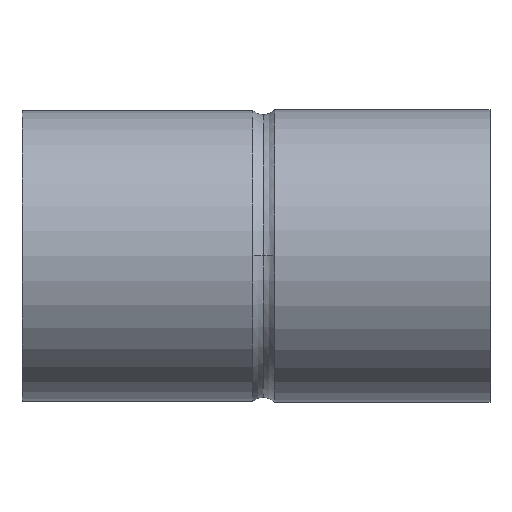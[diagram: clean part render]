
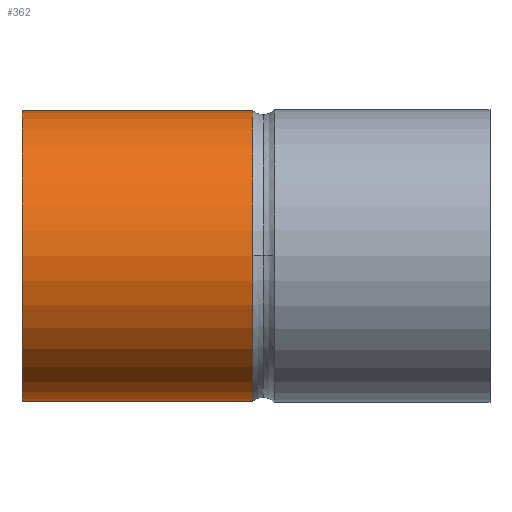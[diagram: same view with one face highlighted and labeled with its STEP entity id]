
A CAD part, top view. The second image highlights one B-rep face of the part: STEP entity #362.
In plain terms, the highlighted cylindrical face has radius 9 mm (diameter 18 mm), a partial arc.
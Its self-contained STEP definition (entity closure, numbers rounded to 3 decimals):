
#312=CARTESIAN_POINT('',(7.145,0.0,0.0));
#313=DIRECTION('',(1.0,0.0,0.0));
#314=DIRECTION('',(0.0,1.0,0.0));
#315=AXIS2_PLACEMENT_3D('',#312,#313,#314);
#316=CYLINDRICAL_SURFACE('',#315,9.);
#317=CARTESIAN_POINT('',(0.,9.0,0.0));
#318=VERTEX_POINT('',#317);
#319=CARTESIAN_POINT('',(14.291,9.,0.0));
#320=VERTEX_POINT('',#319);
#321=CARTESIAN_POINT('',(0.,9.0,0.0));
#322=DIRECTION('',(1.0,0.0,0.0));
#323=VECTOR('',#322,14.291);
#324=LINE('',#321,#323);
#325=EDGE_CURVE('',#318,#320,#324,.T.);
#326=ORIENTED_EDGE('',*,*,#325,.F.);
#327=CARTESIAN_POINT('',(0.,-9.0,0.));
#328=VERTEX_POINT('',#327);
#329=CARTESIAN_POINT('',(0.,0.0,0.0));
#330=DIRECTION('',(1.0,0.0,0.0));
#331=DIRECTION('',(0.0,1.0,0.0));
#332=AXIS2_PLACEMENT_3D('',#329,#330,#331);
#333=CIRCLE('',#332,9.0);
#334=EDGE_CURVE('',#318,#328,#333,.T.);
#335=ORIENTED_EDGE('',*,*,#334,.T.);
#336=CARTESIAN_POINT('',(14.291,-9.,0.));
#337=VERTEX_POINT('',#336);
#338=CARTESIAN_POINT('',(14.291,-9.,0.));
#339=DIRECTION('',(-1.0,0.0,0.0));
#340=VECTOR('',#339,14.291);
#341=LINE('',#338,#340);
#342=EDGE_CURVE('',#337,#328,#341,.T.);
#343=ORIENTED_EDGE('',*,*,#342,.F.);
#344=CARTESIAN_POINT('',(14.291,0.,9.));
#345=VERTEX_POINT('',#344);
#346=CARTESIAN_POINT('',(14.291,0.0,0.0));
#347=DIRECTION('',(1.0,0.0,0.0));
#348=DIRECTION('',(0.0,1.0,0.0));
#349=AXIS2_PLACEMENT_3D('',#346,#347,#348);
#350=CIRCLE('',#349,9.);
#351=EDGE_CURVE('',#345,#337,#350,.T.);
#352=ORIENTED_EDGE('',*,*,#351,.F.);
#353=CARTESIAN_POINT('',(14.291,0.0,0.0));
#354=DIRECTION('',(1.0,0.0,0.0));
#355=DIRECTION('',(0.0,1.0,0.0));
#356=AXIS2_PLACEMENT_3D('',#353,#354,#355);
#357=CIRCLE('',#356,9.);
#358=EDGE_CURVE('',#320,#345,#357,.T.);
#359=ORIENTED_EDGE('',*,*,#358,.F.);
#360=EDGE_LOOP('',(#326,#335,#343,#352,#359));
#361=FACE_OUTER_BOUND('',#360,.T.);
#362=ADVANCED_FACE('',(#361),#316,.T.);
